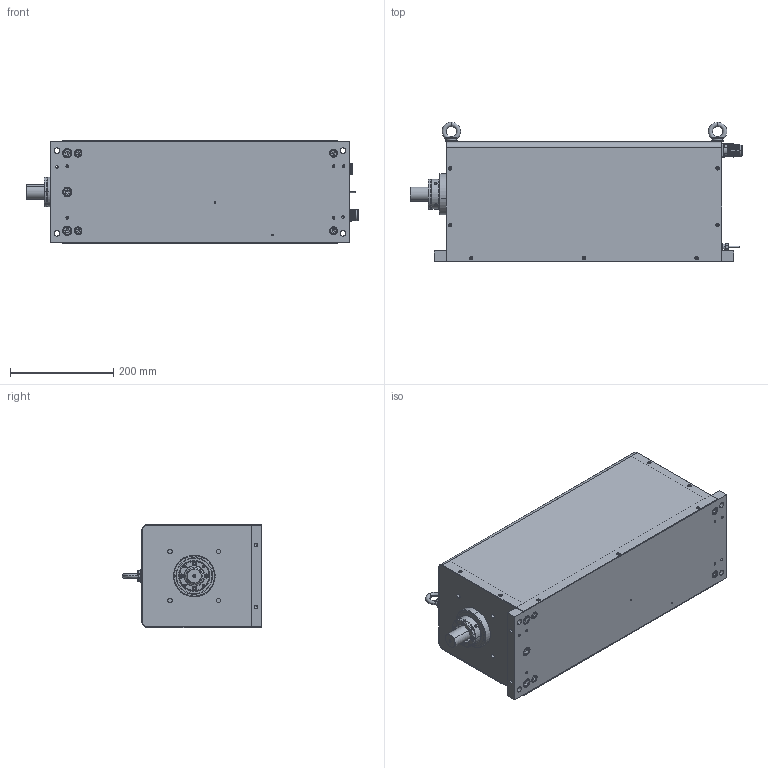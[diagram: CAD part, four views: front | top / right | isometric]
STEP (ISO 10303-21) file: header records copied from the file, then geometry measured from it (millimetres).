
FILE_DESCRIPTION (( 'STEP AP203' ), '1' );
FILE_NAME ('UD5M1000-030-NGNG2 Kundenmodell.STEP', '2020-04-29T05:58:35', ( '' ), ( '' ), 'SwSTEP 2.0', 'SolidWorks 2016', '' );
FILE_SCHEMA (( 'CONFIG_CONTROL_DESIGN' ));
Products named in the file (2): UD5M1000-030-NGNG2 Kundenmodell
Bounding box: 643.27 x 270.17 x 200 mm (x, y, z)
Volume: 4427310.9 mm3; surface area: 1280377.8 mm2
Topology: 55 solids, 55 shells, 3214 faces, 7910 edges, 4821 vertices
Faces by surface type: plane 1181, cylinder 742, bspline 700, cone 493, torus 86, sphere 12
Entity records: 128369 total; most frequent: CARTESIAN_POINT 57445, ORIENTED_EDGE 15420, DIRECTION 13374, EDGE_CURVE 7710, VERTEX_POINT 4821, AXIS2_PLACEMENT_3D 4766, LINE 3842, VECTOR 3842
